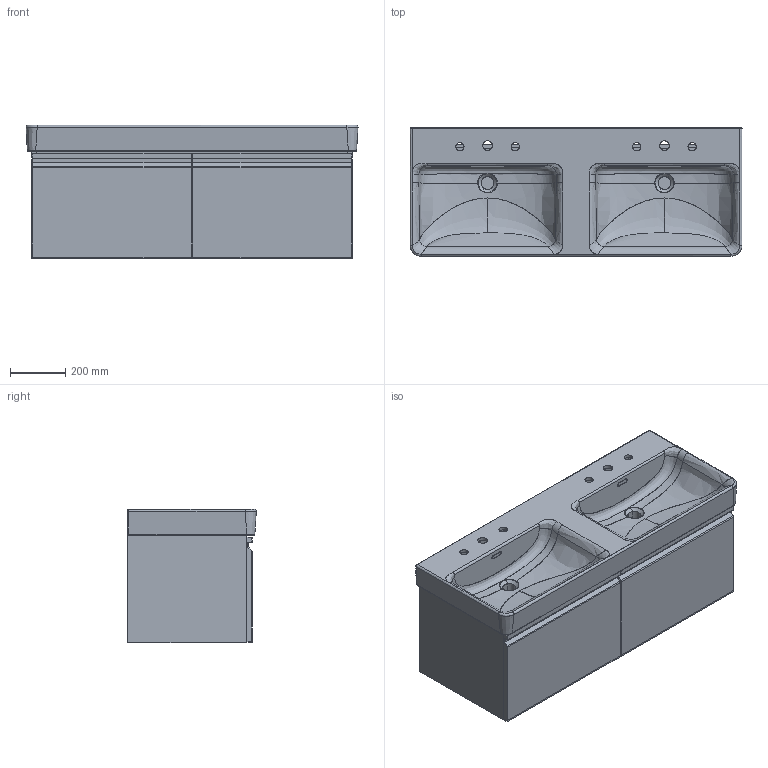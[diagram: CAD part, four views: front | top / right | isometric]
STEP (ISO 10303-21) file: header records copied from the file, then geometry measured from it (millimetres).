
FILE_DESCRIPTION(/* description */ (''),/* implementation_level */ '2;1');
FILE_NAME(/* name */ '3DE62F~1',/* time_stamp */ '2018-05-14T11:37:46+02:00',/* author */ (''),/* organization */ (''),/* preprocessor_version */ 'ST-DEVELOPER v15',/* originating_system */ '',/* authorisation */ '');
FILE_SCHEMA (('AUTOMOTIVE_DESIGN'));
Products named in the file (51): Document; Parte645 01; Parte643 01; Parte641 01; Parte639 01; Parte637 01; Parte635 01; Parte633 01; Parte631 01; Parte629 01; Parte627 01; Parte625 01; Parte619 01; Parte617 01; Parte615 01; Parte613 01; Parte611 01; Parte609 01; Parte607 01; Parte605 01; Parte603 01; Parte601 01; Parte599 01; Parte593 01; Parte587 01; Parte577 01; Parte575 01; Parte573 01; Parte571 01; Parte569 01; Parte567 01; Parte565 01; Parte563 01; Parte561 01; Parte555 01; Parte553 01; Parte551 01; Parte549 01; Parte547 01; Parte545 01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
Assembly tree (50 placements, depth 3):
  Document
    Document
      Parte645 01
      Parte643 01
      Parte641 01
      Parte639 01
      Parte637 01
      Parte635 01
      Parte633 01
      Parte631 01
      Parte629 01
      Parte627 01
      Parte625 01
      Parte619 01
      Parte617 01
      Parte615 01
      Parte613 01
      Parte611 01
      Parte609 01
      Parte607 01
      Parte605 01
      Parte603 01
      Parte601 01
      Parte599 01
      Parte593 01
      Parte587 01
      Parte577 01
      Parte575 01
      Parte573 01
      Parte571 01
      Parte569 01
      Parte567 01
      Parte565 01
      Parte563 01
      Parte561 01
      Parte555 01
      Parte553 01
      Parte551 01
      Parte549 01
      Parte547 01
      Parte545 01
      Parte543 01
      Parte541 01
      Parte539 01
      Parte533 01
      Parte531 01
      Parte529 01
      Parte527 01
      Parte525 01
      Parte511 01
    Parte509
Bounding box: 1200.76 x 465.25 x 483 mm (x, y, z)
Volume: 39828606.1 mm3; surface area: 8469779.7 mm2
Topology: 36 solids, 772 shells, 2424 faces, 8167 edges, 6584 vertices
Faces by surface type: plane 1286, bspline 1138
Entity records: 222161 total; most frequent: CARTESIAN_POINT 172805, ORIENTED_EDGE 12749, EDGE_CURVE 8128, VERTEX_POINT 6584, B_SPLINE_CURVE_WITH_KNOTS 5730, EDGE_LOOP 2667, ADVANCED_FACE 2424, FACE_OUTER_BOUND 2424
